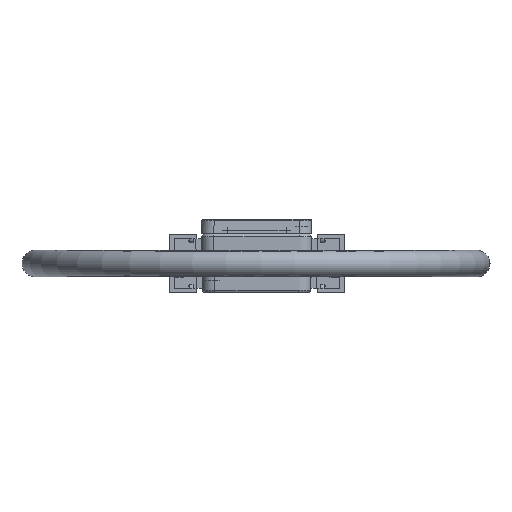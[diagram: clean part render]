
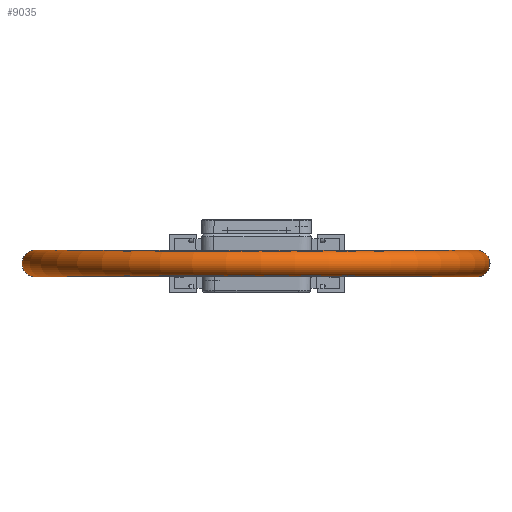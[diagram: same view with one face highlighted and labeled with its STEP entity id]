
A CAD part, left-side view. The second image highlights one B-rep face of the part: STEP entity #9035.
In plain terms, the highlighted toroidal (fillet/blend) face has major radius 90 mm and minor radius 5.4 mm.
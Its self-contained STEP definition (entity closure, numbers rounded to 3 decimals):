
#152=TOROIDAL_SURFACE('',#10185,90.,5.4);
#2073=FACE_BOUND('',#3135,.T.);
#2506=FACE_OUTER_BOUND('',#3134,.T.);
#3134=EDGE_LOOP('',(#7797));
#3135=EDGE_LOOP('',(#7798));
#3669=CIRCLE('',#10184,5.4);
#3670=CIRCLE('',#10186,5.4);
#4459=VERTEX_POINT('',#17296);
#4460=VERTEX_POINT('',#17299);
#5625=EDGE_CURVE('',#4459,#4459,#3669,.T.);
#5626=EDGE_CURVE('',#4460,#4460,#3670,.T.);
#7797=ORIENTED_EDGE('',*,*,#5625,.T.);
#7798=ORIENTED_EDGE('',*,*,#5626,.F.);
#9035=ADVANCED_FACE('',(#2506,#2073),#152,.T.);
#10184=AXIS2_PLACEMENT_3D('',#17297,#12504,#12505);
#10185=AXIS2_PLACEMENT_3D('',#17298,#12506,#12507);
#10186=AXIS2_PLACEMENT_3D('',#17300,#12508,#12509);
#12504=DIRECTION('center_axis',(0.08,-0.997,0.));
#12505=DIRECTION('ref_axis',(-0.997,-0.08,0.));
#12506=DIRECTION('center_axis',(0.,0.,1.));
#12507=DIRECTION('ref_axis',(1.,0.,0.));
#12508=DIRECTION('center_axis',(0.08,0.997,0.));
#12509=DIRECTION('ref_axis',(0.997,-0.08,0.));
#17296=CARTESIAN_POINT('',(95.095,7.626,0.));
#17297=CARTESIAN_POINT('Origin',(89.712,7.195,0.));
#17298=CARTESIAN_POINT('Origin',(0.,0.,0.));
#17299=CARTESIAN_POINT('',(-95.095,7.626,0.));
#17300=CARTESIAN_POINT('Origin',(-89.712,7.195,0.));
